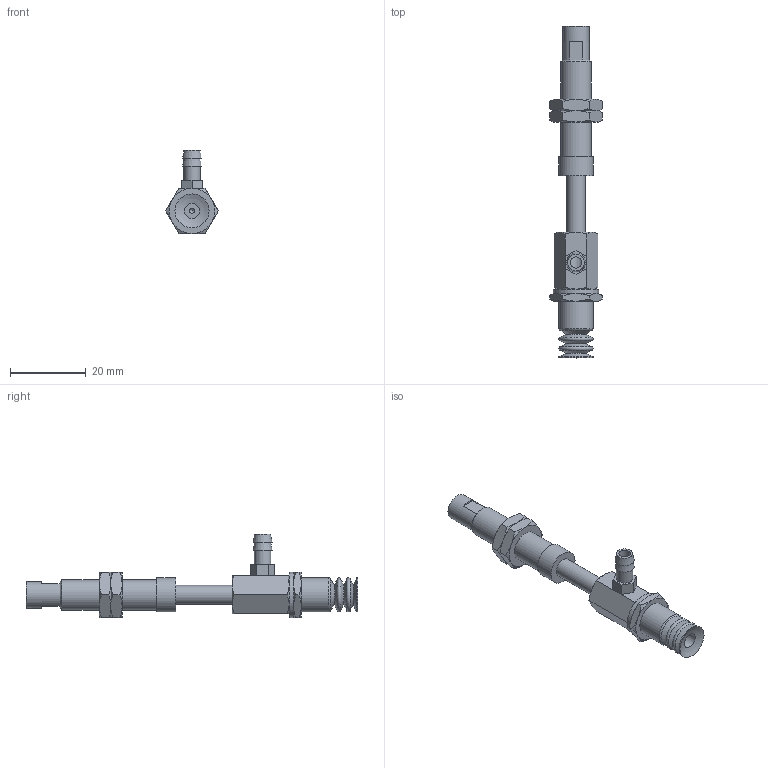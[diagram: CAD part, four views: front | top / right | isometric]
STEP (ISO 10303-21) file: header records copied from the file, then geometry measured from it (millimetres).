
FILE_DESCRIPTION(('STEP AP203'),'1');
FILE_NAME('-T.stp','2025-04-03T06:45:24',(' '),(' '),'Spatial InterOp 3D',' ',' ');
FILE_SCHEMA(('CONFIG_CONTROL_DESIGN'));
Length unit declared in the file: millimetre
Products named in the file (8): BNABPCYS-10-15-※-T; Adapter_napc-10-T; Connector_s-10-15; Nut napc_s-10-15; NAPCTS-10-15-FBODY; NAPCTS-10-15-MBODY; BPCG-10-※; T
Assembly tree (8 placements, depth 2):
  BNABPCYS-10-15-※-T
    Adapter_napc-10-T
    Connector_s-10-15
    Nut napc_s-10-15  x2
    NAPCTS-10-15-FBODY
    NAPCTS-10-15-MBODY
    BPCG-10-※
    T
Bounding box: 13.86 x 87.7 x 22 mm (x, y, z)
Volume: 5131.6 mm3; surface area: 5831.1 mm2
Topology: 8 solids, 8 shells, 177 faces, 364 edges, 216 vertices
Faces by surface type: cone 72, plane 71, cylinder 24, torus 8, sphere 2
Full cylindrical faces by diameter (mm): 1.25 x1, 3 x1, 4 x1, 4.134 x3, 4.3 x1, 5 x9, 7 x1, 7.188 x2, 8 x1, 9 x3, 12 x1
Entity records: 4506 total; most frequent: CARTESIAN_POINT 1140, DIRECTION 626, ORIENTED_EDGE 516, AXIS2_PLACEMENT_3D 281, EDGE_CURVE 258, EDGE_LOOP 232, FACE_OUTER_BOUND 187, VERTEX_POINT 185
